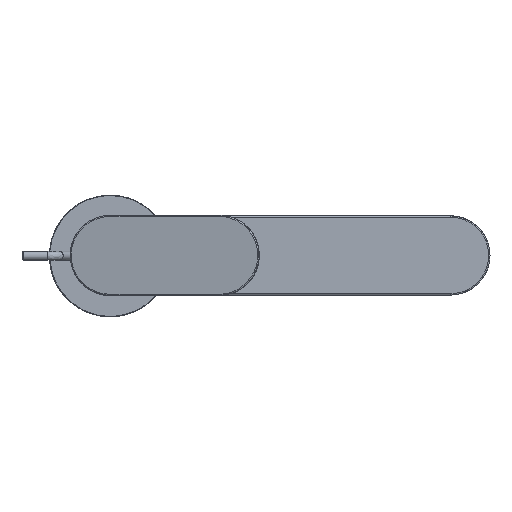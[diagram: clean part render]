
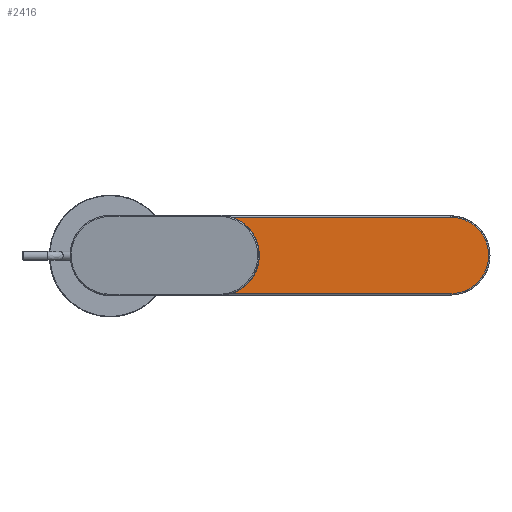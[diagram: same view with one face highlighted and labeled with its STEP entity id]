
A CAD part, top view. The second image highlights one B-rep face of the part: STEP entity #2416.
In plain terms, the highlighted planar face has unit normal (0, 0, 1).
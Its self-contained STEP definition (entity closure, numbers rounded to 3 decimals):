
#2323=CARTESIAN_POINT('',(-18.144,-16.994,132.03));
#2324=DIRECTION('',(0.0,0.0,-1.0));
#2325=DIRECTION('',(0.0,1.0,0.0));
#2326=AXIS2_PLACEMENT_3D('',#2323,#2324,#2325);
#2327=PLANE('',#2326);
#2328=CARTESIAN_POINT('',(151.0,-16.,132.03));
#2329=VERTEX_POINT('',#2328);
#2330=CARTESIAN_POINT('',(0.0,-16.,132.03));
#2331=VERTEX_POINT('',#2330);
#2332=CARTESIAN_POINT('',(151.0,-16.,132.03));
#2333=DIRECTION('',(-1.0,0.0,0.0));
#2334=VECTOR('',#2333,151.0);
#2335=LINE('',#2332,#2334);
#2336=EDGE_CURVE('',#2329,#2331,#2335,.T.);
#2337=ORIENTED_EDGE('',*,*,#2336,.F.);
#2338=CARTESIAN_POINT('',(151.0,18.,132.03));
#2339=VERTEX_POINT('',#2338);
#2340=CARTESIAN_POINT('',(151.0,18.,132.03));
#2341=CARTESIAN_POINT('',(168.,18.,132.03));
#2342=CARTESIAN_POINT('',(168.,1.,132.03));
#2343=CARTESIAN_POINT('',(168.,-16.,132.03));
#2344=CARTESIAN_POINT('',(151.0,-16.,132.03));
#2352=(BOUNDED_CURVE()B_SPLINE_CURVE(2,(#2340,#2341,#2342,#2343,#2344),.UNSPECIFIED.,.F.,.U.)B_SPLINE_CURVE_WITH_KNOTS((3,2,3),(0.0,0.5,1.0),.UNSPECIFIED.)CURVE()GEOMETRIC_REPRESENTATION_ITEM()RATIONAL_B_SPLINE_CURVE((1.0,0.707,1.0,0.707,1.0))REPRESENTATION_ITEM(''));
#2353=EDGE_CURVE('',#2339,#2329,#2352,.T.);
#2354=ORIENTED_EDGE('',*,*,#2353,.F.);
#2355=CARTESIAN_POINT('',(0.0,18.,132.03));
#2356=VERTEX_POINT('',#2355);
#2357=CARTESIAN_POINT('',(0.0,18.,132.03));
#2358=DIRECTION('',(1.0,0.0,0.0));
#2359=VECTOR('',#2358,151.0);
#2360=LINE('',#2357,#2359);
#2361=EDGE_CURVE('',#2356,#2339,#2360,.T.);
#2362=ORIENTED_EDGE('',*,*,#2361,.F.);
#2363=CARTESIAN_POINT('',(0.0,-16.,132.03));
#2364=CARTESIAN_POINT('',(-17.,-16.,132.03));
#2365=CARTESIAN_POINT('',(-17.,1.,132.03));
#2366=CARTESIAN_POINT('',(-17.,18.,132.03));
#2367=CARTESIAN_POINT('',(0.0,18.,132.03));
#2375=(BOUNDED_CURVE()B_SPLINE_CURVE(2,(#2363,#2364,#2365,#2366,#2367),.UNSPECIFIED.,.F.,.U.)B_SPLINE_CURVE_WITH_KNOTS((3,2,3),(0.0,0.5,1.0),.UNSPECIFIED.)CURVE()GEOMETRIC_REPRESENTATION_ITEM()RATIONAL_B_SPLINE_CURVE((1.0,0.707,1.0,0.707,1.0))REPRESENTATION_ITEM(''));
#2376=EDGE_CURVE('',#2331,#2356,#2375,.T.);
#2377=ORIENTED_EDGE('',*,*,#2376,.F.);
#2378=EDGE_LOOP('',(#2337,#2354,#2362,#2377));
#2379=FACE_OUTER_BOUND('',#2378,.T.);
#2380=CARTESIAN_POINT('',(16.,1.,132.03));
#2381=VERTEX_POINT('',#2380);
#2382=CARTESIAN_POINT('',(-16.,1.,132.03));
#2383=VERTEX_POINT('',#2382);
#2384=CARTESIAN_POINT('',(16.,1.,132.03));
#2385=CARTESIAN_POINT('',(16.,17.,132.03));
#2386=CARTESIAN_POINT('',(0.,17.,132.03));
#2387=CARTESIAN_POINT('',(-16.,17.,132.03));
#2388=CARTESIAN_POINT('',(-16.,1.,132.03));
#2396=(BOUNDED_CURVE()B_SPLINE_CURVE(2,(#2384,#2385,#2386,#2387,#2388),.UNSPECIFIED.,.F.,.U.)B_SPLINE_CURVE_WITH_KNOTS((3,2,3),(0.0,0.5,1.0),.UNSPECIFIED.)CURVE()GEOMETRIC_REPRESENTATION_ITEM()RATIONAL_B_SPLINE_CURVE((1.0,0.707,1.0,0.707,1.0))REPRESENTATION_ITEM(''));
#2397=EDGE_CURVE('',#2381,#2383,#2396,.T.);
#2398=ORIENTED_EDGE('',*,*,#2397,.F.);
#2399=CARTESIAN_POINT('',(-16.,1.,132.03));
#2400=CARTESIAN_POINT('',(-16.,-15.,132.03));
#2401=CARTESIAN_POINT('',(0.,-15.,132.03));
#2402=CARTESIAN_POINT('',(16.,-15.,132.03));
#2403=CARTESIAN_POINT('',(16.,1.,132.03));
#2411=(BOUNDED_CURVE()B_SPLINE_CURVE(2,(#2399,#2400,#2401,#2402,#2403),.UNSPECIFIED.,.F.,.U.)B_SPLINE_CURVE_WITH_KNOTS((3,2,3),(0.0,0.5,1.0),.UNSPECIFIED.)CURVE()GEOMETRIC_REPRESENTATION_ITEM()RATIONAL_B_SPLINE_CURVE((1.0,0.707,1.0,0.707,1.0))REPRESENTATION_ITEM(''));
#2412=EDGE_CURVE('',#2383,#2381,#2411,.T.);
#2413=ORIENTED_EDGE('',*,*,#2412,.F.);
#2414=EDGE_LOOP('',(#2398,#2413));
#2415=FACE_BOUND('',#2414,.T.);
#2416=ADVANCED_FACE('',(#2379,#2415),#2327,.F.);
